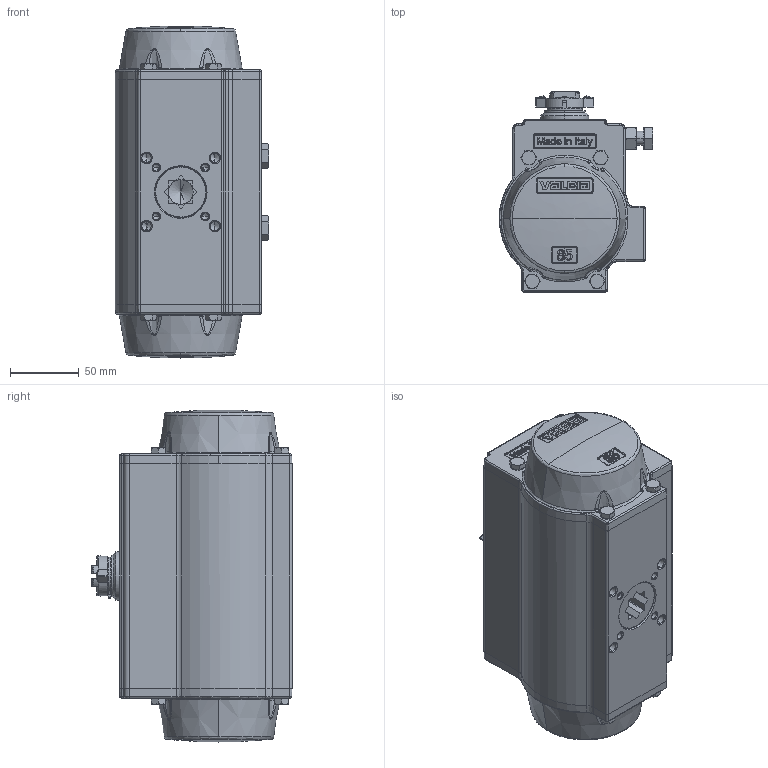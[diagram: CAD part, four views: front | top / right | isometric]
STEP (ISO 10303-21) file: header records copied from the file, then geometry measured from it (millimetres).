
FILE_DESCRIPTION (( 'STEP AP214' ), '1' );
FILE_NAME ('ASSIEME DA SR 85 S82.STEP', '2012-11-30T09:04:35', ( 'PC01TECNICO' ), ( 'Valbia' ), 'SwSTEP 2.0', 'SolidWorks 2010', '' );
FILE_SCHEMA (( 'AUTOMOTIVE_DESIGN' ));
Length unit declared in the file: millimetre
Products named in the file (1): ASSIEME DA SR 85 S82
Bounding box: 111.35 x 145 x 240.69 mm (x, y, z)
Volume: 2244158.8 mm3; surface area: 123602.7 mm2
Topology: 1 solids, 1 shells, 1596 faces, 4164 edges, 2599 vertices
Faces by surface type: plane 584, bspline 537, cylinder 230, cone 229, torus 16
Entity records: 100314 total; most frequent: CARTESIAN_POINT 51060, ORIENTED_EDGE 8208, DIRECTION 4577, EDGE_CURVE 4104, VERTEX_POINT 2599, B_SPLINE_CURVE_WITH_KNOTS 1950, EDGE_LOOP 1699, FACE_OUTER_BOUND 1596
